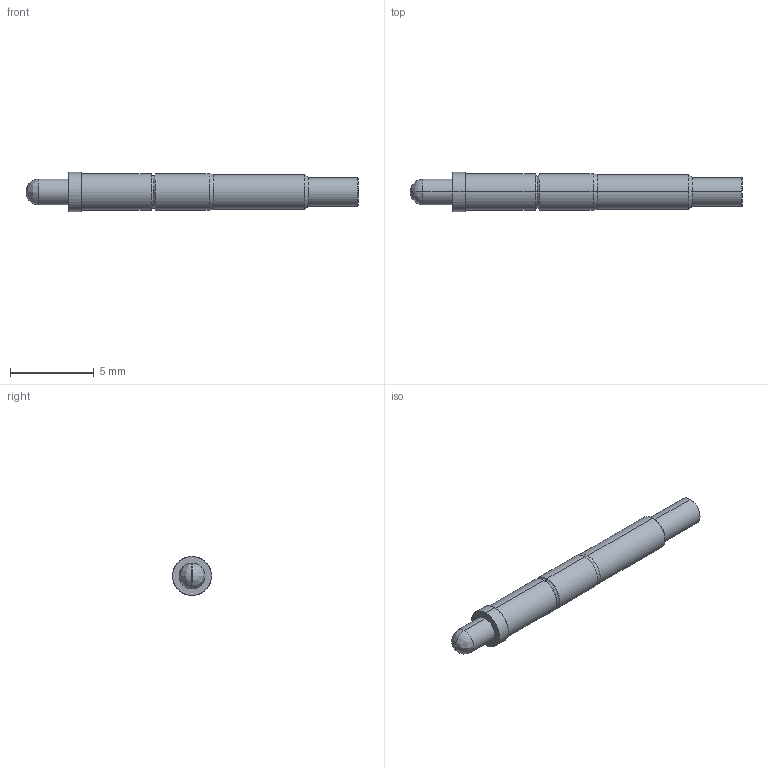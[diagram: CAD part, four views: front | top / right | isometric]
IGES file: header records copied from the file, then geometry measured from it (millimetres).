
Start section: SolidWorks IGES file using analytic representation for surfaces
Global section: file name: O:\PYLON\IGES FILES\G-S\G-S-R.IGS; native system: SolidWorks 2015; preprocessor: SolidWorks 2015; author: kgolden; date: 171024.094202; units: inch
Bounding box: 19.81 x 2.34 x 2.34 mm (x, y, z)
Surface area: 143.6 mm2 (no closed solid volume)
Topology: 0 solids, 0 shells, 29 faces, 264 edges, 264 vertices
Faces by surface type: revolution 18, bspline 11
